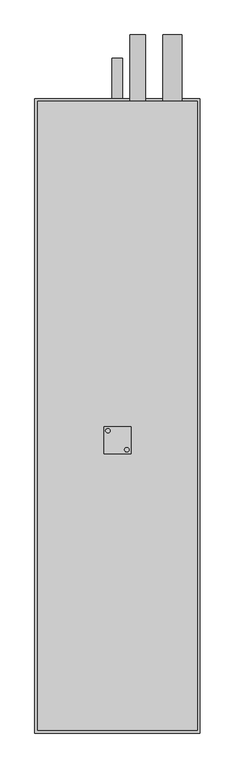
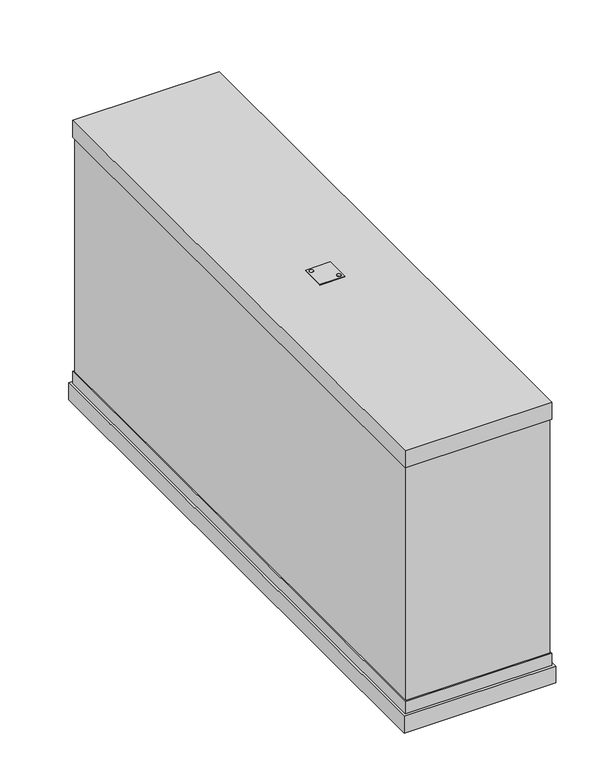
"""IFC4 building model written with IfcOpenShell, lengths in millimetres: proxy geometry, KORF_Воздухоохладитель_Фреоновый_FLO_Правый : FLO 100-50."""

import ifcopenshell
import ifcopenshell.guid

model = None  # the IFC model being written
_history = None  # IfcOwnerHistory: only IFC2X3 demands one
_inside = {}  # id of a spatial element -> (the spatial element, [elements in it])
_under = {}  # id of a project, library or spatial element -> (it, [spatial elements below it])
_declared = {}  # id of a project -> (the project, [libraries it declares])
_typed = {}  # id of a type object -> (the type object, [elements of that type])
_made_of = {}  # id of a material, layer set ... -> (it, [elements and type objects made of it])


def new_model(schema):
    """Start an empty IFC model of exactly this schema.

    Asked for "IFC4X3", IfcOpenShell would pick the latest addendum, in which some entities
    have other attributes; the version numbers below select the first issue.
    IFC2X3 requires an IfcOwnerHistory on every rooted entity: one is made here for all.
    """
    global model, _history
    if schema == "IFC4X3":
        model = ifcopenshell.file(schema_version=(4, 3, 0, 0))
    else:
        model = ifcopenshell.file(schema=schema)
    _inside.clear()
    _under.clear()
    _declared.clear()
    _typed.clear()
    _made_of.clear()
    _history = None
    if model.schema == "IFC2X3":
        org = make("IfcOrganization", Name="unknown")
        user = make(
            "IfcPersonAndOrganization",
            ThePerson=make("IfcPerson", FamilyName="unknown"),
            TheOrganization=org,
        )
        app = make(
            "IfcApplication",
            ApplicationDeveloper=org,
            Version="unknown",
            ApplicationFullName="unknown",
            ApplicationIdentifier="unknown",
        )
        _history = make(
            "IfcOwnerHistory",
            OwningUser=user,
            OwningApplication=app,
            ChangeAction="ADDED",
            CreationDate=0,
        )
    return model


def make(cls, **values):
    """One entity of the class cls with the attributes given. An attribute that is None is left unset."""
    return model.create_entity(
        cls, **{name: value for name, value in values.items() if value is not None}
    )


def rooted(cls, **values):
    """An entity with a GlobalId (a new one), such as an element, a storey or a relation."""
    return make(cls, GlobalId=ifcopenshell.guid.new(), OwnerHistory=_history, **values)


def si_unit(unit_type, name, prefix=None):
    """IfcSIUnit, for example si_unit("LENGTHUNIT", "METRE", prefix="MILLI")."""
    return make("IfcSIUnit", UnitType=unit_type, Prefix=prefix, Name=name)


def assignment(units):
    """IfcUnitAssignment: the units of a project."""
    return None if units is None else make("IfcUnitAssignment", Units=units)


def point(xyz):
    """IfcCartesianPoint."""
    return None if xyz is None else make("IfcCartesianPoint", Coordinates=xyz)


def direction(xyz):
    """IfcDirection."""
    return None if xyz is None else make("IfcDirection", DirectionRatios=xyz)


def frame(location, z_axis=None, x_axis=None):
    """IfcAxis2Placement3D, a coordinate frame: its origin and axes. An axis left out is left unset."""
    return make(
        "IfcAxis2Placement3D",
        Location=point(location),
        Axis=direction(z_axis),
        RefDirection=direction(x_axis),
    )


def frame_2d(location, x_axis=None):
    """IfcAxis2Placement2D, a coordinate frame in the plane: its origin and x axis."""
    return make(
        "IfcAxis2Placement2D", Location=point(location), RefDirection=direction(x_axis)
    )


def origin():
    """The frame at (0, 0, 0) with its axes left unset."""
    return frame((0.0, 0.0, 0.0))


def place(relative_to, where):
    """IfcLocalPlacement: puts the frame where relative to a parent placement (None: the world)."""
    return make(
        "IfcLocalPlacement", PlacementRelTo=relative_to, RelativePlacement=where
    )


def context(
    kind, dimensions, precision=None, world=None, true_north=None, identifier=None
):
    """IfcGeometricRepresentationContext, for example the 3D "Model" context."""
    return make(
        "IfcGeometricRepresentationContext",
        ContextIdentifier=identifier,
        ContextType=kind,
        CoordinateSpaceDimension=dimensions,
        Precision=precision,
        WorldCoordinateSystem=world,
        TrueNorth=true_north,
    )


def project(units=None, contexts=None):
    """IfcProject with its units and contexts."""
    return rooted(
        "IfcProject",
        Name="project",
        RepresentationContexts=contexts,
        UnitsInContext=assignment(units),
    )


def spatial(cls, under=None, at=None, **own):
    """A site, building, storey or space (cls), placed at a placement, below another one or the project."""
    s = rooted(cls, ObjectPlacement=at, **own)
    if under is not None:
        _under.setdefault(under.id(), (under, []))[1].append(s)
    return s


def polyline(points):
    """IfcPolyline through the points."""
    return make("IfcPolyline", Points=[point(p) for p in points])


def circle_curve(where, radius):
    """IfcCircle in the frame where."""
    return make("IfcCircle", Position=where, Radius=radius)


def trimmed(basis, trim1, trim2, sense, master):
    """IfcTrimmedCurve: the piece of a basis curve between two trims."""
    return make(
        "IfcTrimmedCurve",
        BasisCurve=basis,
        Trim1=trim1,
        Trim2=trim2,
        SenseAgreement=sense,
        MasterRepresentation=master,
    )


def segment(curve, same_sense, transition):
    """IfcCompositeCurveSegment."""
    return make(
        "IfcCompositeCurveSegment",
        Transition=transition,
        SameSense=same_sense,
        ParentCurve=curve,
    )


def composite_curve(segments, self_intersect=None):
    """IfcCompositeCurve: segments joined end to end."""
    return make("IfcCompositeCurve", Segments=segments, SelfIntersect=self_intersect)


def outline(outer, holes=None, kind="AREA"):
    """IfcArbitraryClosedProfileDef: a profile drawn as a closed curve; with holes, ...WithVoids."""
    if holes is None:
        return make("IfcArbitraryClosedProfileDef", ProfileType=kind, OuterCurve=outer)
    return make(
        "IfcArbitraryProfileDefWithVoids",
        ProfileType=kind,
        OuterCurve=outer,
        InnerCurves=holes,
    )


def extrude(swept, where, along, depth):
    """IfcExtrudedAreaSolid: the profile swept, set in the frame where, extruded along a direction by depth."""
    return make(
        "IfcExtrudedAreaSolid",
        SweptArea=swept,
        Position=where,
        ExtrudedDirection=direction(along),
        Depth=depth,
    )


def faces_of(points, faces, orient=None, outer=None):
    """IfcFace entities. A face is a list of loops; a loop is a list of indices into points, from 0.

    orient and outer hold one flag for each loop. By default every Orientation is true, the
    first loop of a face is its IfcFaceOuterBound and the others are IfcFaceBound.
    """
    made = []
    for i, loops in enumerate(faces):
        bounds = []
        for j, loop in enumerate(loops):
            is_outer = j == 0 if outer is None else outer[i][j]
            bounds.append(
                make(
                    "IfcFaceOuterBound" if is_outer else "IfcFaceBound",
                    Bound=make("IfcPolyLoop", Polygon=[points[k] for k in loop]),
                    Orientation=True if orient is None else orient[i][j],
                )
            )
        made.append(make("IfcFace", Bounds=bounds))
    return made


def faceted_brep(points, faces, orient=None, outer=None, voids=None):
    """IfcFacetedBrep: a solid bounded by flat faces; with voids (closed shells), ...WithVoids."""
    shared = [point(p) for p in points]
    hull = make("IfcClosedShell", CfsFaces=faces_of(shared, faces, orient, outer))
    if voids is None:
        return make("IfcFacetedBrep", Outer=hull)
    return make(
        "IfcFacetedBrepWithVoids",
        Outer=hull,
        Voids=[
            make(cls, CfsFaces=faces_of(shared, fs, o, b)) for cls, fs, o, b in voids
        ],
    )


def shape(context_of_items, identifier, shape_type, items):
    """IfcShapeRepresentation: the items that make up one representation, for example the "Body"."""
    return make(
        "IfcShapeRepresentation",
        ContextOfItems=context_of_items,
        RepresentationIdentifier=identifier,
        RepresentationType=shape_type,
        Items=items,
    )


def source(mapping_origin, context_of_items, identifier, shape_type, items):
    """IfcRepresentationMap: a shape defined once, which mapped items show again and again."""
    return make(
        "IfcRepresentationMap",
        MappingOrigin=mapping_origin,
        MappedRepresentation=shape(context_of_items, identifier, shape_type, items),
    )


def transform(
    local_origin,
    x_axis=None,
    y_axis=None,
    z_axis=None,
    scale=None,
    scale2=None,
    scale3=None,
    uniform=True,
):
    """IfcCartesianTransformationOperator3D, or its non-uniform kind. x_axis, y_axis, z_axis: its Axis1, 2, 3."""
    if uniform:
        return make(
            "IfcCartesianTransformationOperator3D",
            Axis1=direction(x_axis),
            Axis2=direction(y_axis),
            LocalOrigin=point(local_origin),
            Scale=scale,
            Axis3=direction(z_axis),
        )
    return make(
        "IfcCartesianTransformationOperator3DnonUniform",
        Axis1=direction(x_axis),
        Axis2=direction(y_axis),
        LocalOrigin=point(local_origin),
        Scale=scale,
        Axis3=direction(z_axis),
        Scale2=scale2,
        Scale3=scale3,
    )


def mapped(mapping_source, mapping_target):
    """IfcMappedItem: shows the shape of a source again, moved by a transform."""
    return make(
        "IfcMappedItem", MappingSource=mapping_source, MappingTarget=mapping_target
    )


def made_of(thing, what):
    """Note that an element or type object is made of a material, layer set ...; save() writes the relation."""
    if what is not None:
        _made_of.setdefault(what.id(), (what, []))[1].append(thing)
    return thing


def element(
    cls,
    number,
    at=None,
    inside=None,
    cuts=None,
    type_object=None,
    material=None,
    context=None,
    identifier="Body",
    shape_type=None,
    held_by="IfcProductDefinitionShape",
    body=None,
    shapes=None,
    **own,
):
    """One element of the class cls, such as IfcWall. Its Tag is "e" and its number.

    at: its placement. inside: the storey or other place that contains it. cuts: it is an
    opening in that element (IfcRelVoidsElement). A single representation is given by context,
    identifier, shape_type and body (its items); several are given by shapes. held_by: the class
    of the entity that holds the representations. save() writes the other relations.
    """
    e = rooted(cls, Tag="e%d" % number, ObjectPlacement=at, **own)
    if body is not None:
        shapes = [shape(context, identifier, shape_type, body)]
    if shapes is not None:
        e.Representation = make(held_by, Representations=shapes)
    if inside is not None:
        _inside.setdefault(inside.id(), (inside, []))[1].append(e)
    if cuts is not None:
        rooted(
            "IfcRelVoidsElement", RelatingBuildingElement=cuts, RelatedOpeningElement=e
        )
    if type_object is not None:
        _typed.setdefault(type_object.id(), (type_object, []))[1].append(e)
    return made_of(e, material)


def aggregate(whole, parts):
    """IfcRelAggregates: a whole, such as a stair, and the parts it consists of."""
    return rooted("IfcRelAggregates", RelatingObject=whole, RelatedObjects=parts)


def save(model, path):
    """Write the relations noted so far, then the file.

    IfcRelAggregates (storeys below a building ...), IfcRelContainedInSpatialStructure (elements
    in a storey), IfcRelDefinesByType, IfcRelAssociatesMaterial and IfcRelDeclares: one each for
    every whole, place, type object, material and project.
    """
    for whole, parts in _under.values():
        aggregate(whole, parts)
    for where, things in _inside.values():
        rooted(
            "IfcRelContainedInSpatialStructure",
            RelatedElements=things,
            RelatingStructure=where,
        )
    for kind, things in _typed.values():
        rooted("IfcRelDefinesByType", RelatedObjects=things, RelatingType=kind)
    for what, things in _made_of.values():
        rooted("IfcRelAssociatesMaterial", RelatedObjects=things, RelatingMaterial=what)
    for by, libraries in _declared.values():
        rooted("IfcRelDeclares", RelatingContext=by, RelatedDefinitions=libraries)
    model.write(path)


def mechanical_equipment_72505fe7(model_context):
    return source(origin(), model_context, "Body", "SolidModel", [
        extrude(outline(composite_curve([segment(trimmed(circle_curve(frame_2d((170.5727066, -17.5745746)), 4.0), [point((174.5727066, -17.5745746))], [point((166.5727066, -17.5745746))], False, "CARTESIAN"), True, "CONTINUOUS"), segment(trimmed(circle_curve(frame_2d((170.5727066, -17.5745746)), 4.0), [point((166.5727066, -17.5745746))], [point((174.5727066, -17.5745746))], False, "CARTESIAN"), True, "CONTINUOUS")], self_intersect=False)), frame((0.0, 0.0, 286.0), z_axis=(0.0, 0.0, 1.0), x_axis=(1.0, 0.0, 0.0)), (0.0, 0.0, 1.0), 2.0),
        extrude(outline(composite_curve([segment(trimmed(circle_curve(frame_2d((135.4272934, 17.5745746)), 4.0), [point((131.4272934, 17.5745746))], [point((139.4272934, 17.5745746))], False, "CARTESIAN"), True, "CONTINUOUS"), segment(trimmed(circle_curve(frame_2d((135.4272934, 17.5745746)), 4.0), [point((139.4272934, 17.5745746))], [point((131.4272934, 17.5745746))], False, "CARTESIAN"), True, "CONTINUOUS")], self_intersect=False)), frame((0.0, 0.0, 286.0), z_axis=(0.0, 0.0, 1.0), x_axis=(1.0, 0.0, 0.0)), (0.0, 0.0, 1.0), 2.0),
        extrude(outline(polyline([(128.0, -25.0), (128.0, 25.0), (178.0, 25.0), (178.0, -25.0), (128.0, -25.0)]), holes=[composite_curve([segment(trimmed(circle_curve(frame_2d((170.5727066, -17.5745746)), 4.0), [point((174.5727066, -17.5745746))], [point((166.5727066, -17.5745746))], True, "CARTESIAN"), True, "CONTINUOUS"), segment(trimmed(circle_curve(frame_2d((170.5727066, -17.5745746)), 4.0), [point((166.5727066, -17.5745746))], [point((174.5727066, -17.5745746))], True, "CARTESIAN"), True, "CONTINUOUS")], self_intersect=False), composite_curve([segment(trimmed(circle_curve(frame_2d((135.4272934, 17.5745746)), 4.0), [point((131.4272934, 17.5745746))], [point((139.4272934, 17.5745746))], True, "CARTESIAN"), True, "CONTINUOUS"), segment(trimmed(circle_curve(frame_2d((135.4272934, 17.5745746)), 4.0), [point((139.4272934, 17.5745746))], [point((131.4272934, 17.5745746))], True, "CARTESIAN"), True, "CONTINUOUS")], self_intersect=False)]), frame((0.0, 0.0, 286.0), z_axis=(0.0, 0.0, 1.0), x_axis=(1.0, 0.0, 0.0)), (0.0, 0.0, 1.0), 2.0),
        faceted_brep([(306.0, -542.0, -276.0), (306.0, -542.0, -312.0), (306.0, 632.0, -312.0), (306.0, 632.0, -276.0), (0.0, -542.0, -276.0), (0.0, 632.0, -276.0), (0.0, 632.0, -312.0), (0.0, -542.0, -312.0), (301.0, 627.0, -276.0), (301.0, -537.0, -276.0), (5.0, -537.0, -276.0), (5.0, 627.0, -276.0), (298.0, -534.0, 250.0), (298.0, -534.0, -250.0), (298.0, -500.0, -250.0), (298.0, 500.0, -250.0), (298.0, 624.0, -250.0), (298.0, 624.0, 250.0), (298.0, 500.0, 250.0), (298.0, -500.0, 250.0), (8.0, 624.0, 250.0), (8.0, 624.0, -250.0), (8.0, 500.0, -250.0), (8.0, -500.0, -250.0), (8.0, -534.0, -250.0), (8.0, -534.0, 250.0), (8.0, -500.0, 250.0), (8.0, 500.0, 250.0), (301.0, -537.0, 250.0), (301.0, 627.0, 250.0), (301.0, 627.0, 286.0), (301.0, -537.0, 286.0), (301.0, -537.0, -250.0), (301.0, 627.0, -250.0), (5.0, -537.0, 250.0), (5.0, -537.0, 286.0), (5.0, 627.0, 286.0), (5.0, 627.0, 250.0), (5.0, -537.0, -250.0), (5.0, 627.0, -250.0)], [[[0, 1, 2, 3]], [[4, 5, 6, 7]], [[1, 0, 4, 7]], [[2, 1, 7, 6]], [[3, 2, 6, 5]], [[0, 3, 5, 4], [8, 9, 10, 11]], [[12, 13, 14, 15, 16, 17, 18, 19]], [[20, 21, 22, 23, 24, 25, 26, 27]], [[13, 12, 25, 24]], [[17, 16, 21, 20]], [[28, 29, 30, 31]], [[32, 9, 8, 33]], [[34, 35, 36, 37]], [[38, 39, 11, 10]], [[29, 28, 34, 37], [12, 19, 18, 17, 20, 27, 26, 25]], [[30, 29, 37, 36]], [[31, 30, 36, 35]], [[28, 31, 35, 34]], [[9, 32, 38, 10]], [[33, 8, 11, 39]], [[32, 33, 39, 38], [14, 13, 24, 23, 22, 21, 16, 15]]]),
        extrude(outline(composite_curve([segment(trimmed(circle_curve(frame_2d((-200.0, 255.0)), 17.46), [point((-200.0, 237.54))], [point((-200.0, 272.46))], False, "CARTESIAN"), True, "CONTINUOUS"), segment(trimmed(circle_curve(frame_2d((-200.0, 255.0)), 17.46), [point((-200.0, 272.46))], [point((-200.0, 237.54))], False, "CARTESIAN"), True, "CONTINUOUS")], self_intersect=False)), frame((0.0, 624.0, 0.0), z_axis=(0.0, 1.0, 0.0), x_axis=(0.0, 0.0, 1.0)), (0.0, 0.0, 1.0), 126.0),
        extrude(outline(composite_curve([segment(trimmed(circle_curve(frame_2d((120.0, 191.0)), 14.285), [point((120.0, 176.715))], [point((120.0, 205.285))], False, "CARTESIAN"), True, "CONTINUOUS"), segment(trimmed(circle_curve(frame_2d((120.0, 191.0)), 14.285), [point((120.0, 205.285))], [point((120.0, 176.715))], False, "CARTESIAN"), True, "CONTINUOUS")], self_intersect=False)), frame((0.0, 624.0, 0.0), z_axis=(0.0, 1.0, 0.0), x_axis=(0.0, 0.0, 1.0)), (0.0, 0.0, 1.0), 126.0),
        extrude(outline(composite_curve([segment(trimmed(circle_curve(frame_2d((-294.0, 153.0)), 10.0), [point((-294.0, 143.0))], [point((-294.0, 163.0))], False, "CARTESIAN"), True, "CONTINUOUS"), segment(trimmed(circle_curve(frame_2d((-294.0, 153.0)), 10.0), [point((-294.0, 163.0))], [point((-294.0, 143.0))], False, "CARTESIAN"), True, "CONTINUOUS")], self_intersect=False)), frame((0.0, 632.0, 0.0), z_axis=(0.0, 1.0, 0.0), x_axis=(0.0, 0.0, 1.0)), (0.0, 0.0, 1.0), 75.0),
    ])


if __name__ == "__main__":
    model = new_model("IFC4")
    model_context = context("Model", 3, world=origin())
    ifc_project = project(units=[si_unit("LENGTHUNIT", "METRE", prefix="MILLI")], contexts=[model_context])
    site = spatial("IfcSite", under=ifc_project)
    building = spatial("IfcBuilding", under=site)
    placement = place(None, origin())
    mechanical_equipment_shape = mechanical_equipment_72505fe7(model_context)
    element("IfcBuildingElementProxy", 1, Name="KORF_Воздухоохладитель_Фреоновый_FLO_Правый : FLO 100-50", ObjectType="KORF_Воздухоохладитель_Фреоновый_FLO_Правый : FLO 100-50", at=placement, inside=building, context=model_context, shape_type="MappedRepresentation", body=[
        mapped(mechanical_equipment_shape, transform((0.0, 0.0, 0.0), x_axis=(1.0, 0.0, 0.0), y_axis=(0.0, 1.0, 0.0), z_axis=(0.0, 0.0, 1.0))),
    ])
    save(model, "model.ifc")
